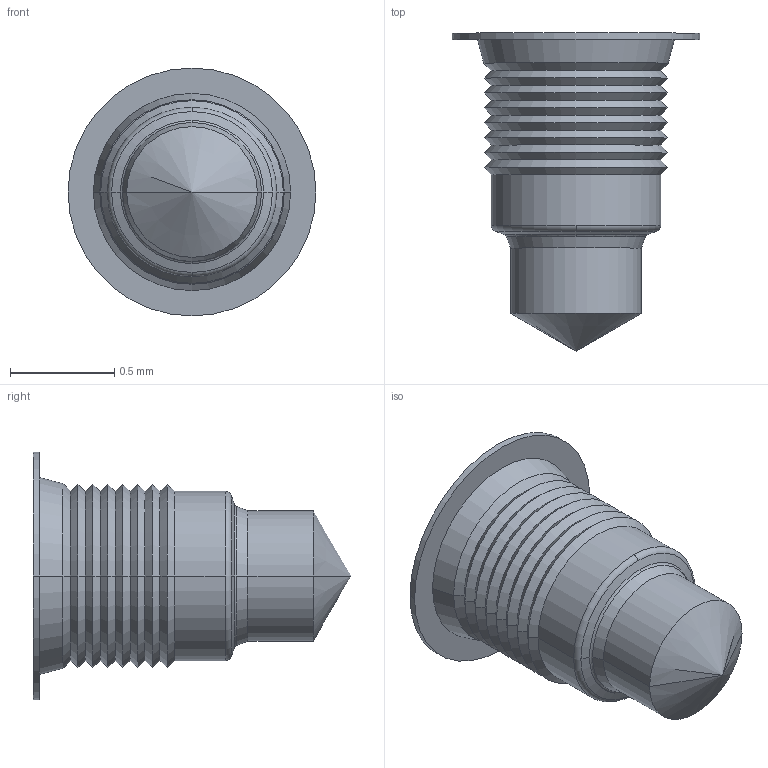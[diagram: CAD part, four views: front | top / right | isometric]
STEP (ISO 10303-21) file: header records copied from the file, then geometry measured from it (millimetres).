
FILE_DESCRIPTION((''),'2;1');
FILE_NAME('0000-3D.stp','2011-04-18T10:58:34',(''),(''),'Mechanical Desktop 2009','Mechanical Desktop 2009',', , ');
FILE_SCHEMA(('CONFIG_CONTROL_DESIGN'));
Length unit declared in the file: millimetre
Products named in the file (1): Product
Bounding box: 1.19 x 1.52 x 1.19 mm (x, y, z)
Volume: 0.7 mm3; surface area: 5.8 mm2
Topology: 1 solids, 1 shells, 50 faces, 108 edges, 59 vertices
Faces by surface type: cone 38, cylinder 6, bspline 2, torus 2, plane 2
Entity records: 1507 total; most frequent: CARTESIAN_POINT 304, DIRECTION 266, ORIENTED_EDGE 212, AXIS2_PLACEMENT_3D 111, EDGE_CURVE 106, CIRCLE 62, VERTEX_POINT 59, EDGE_LOOP 51
